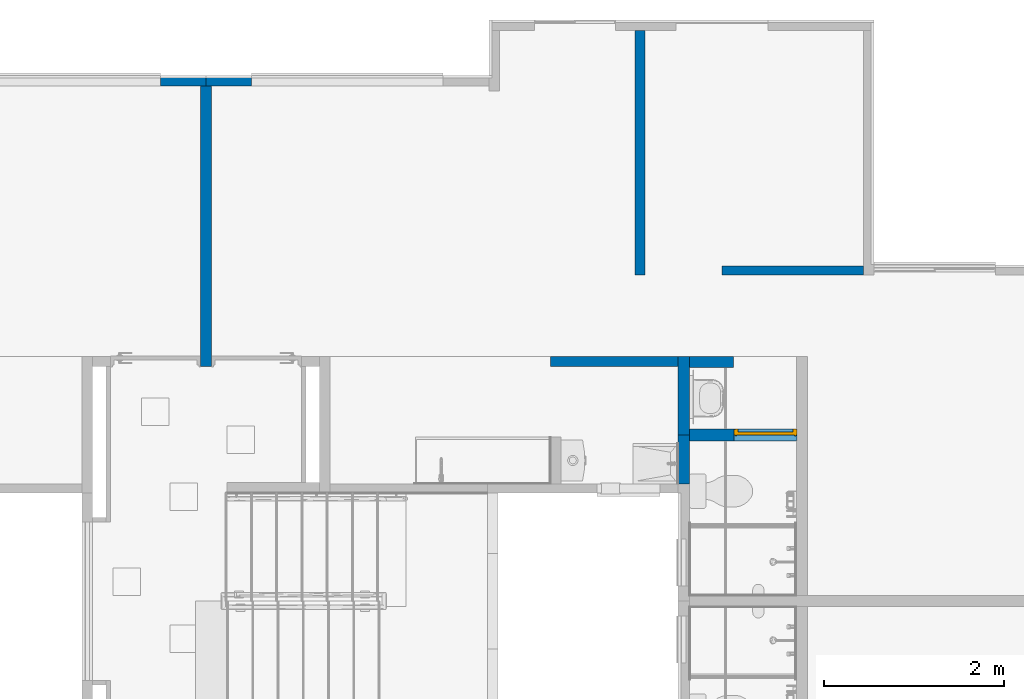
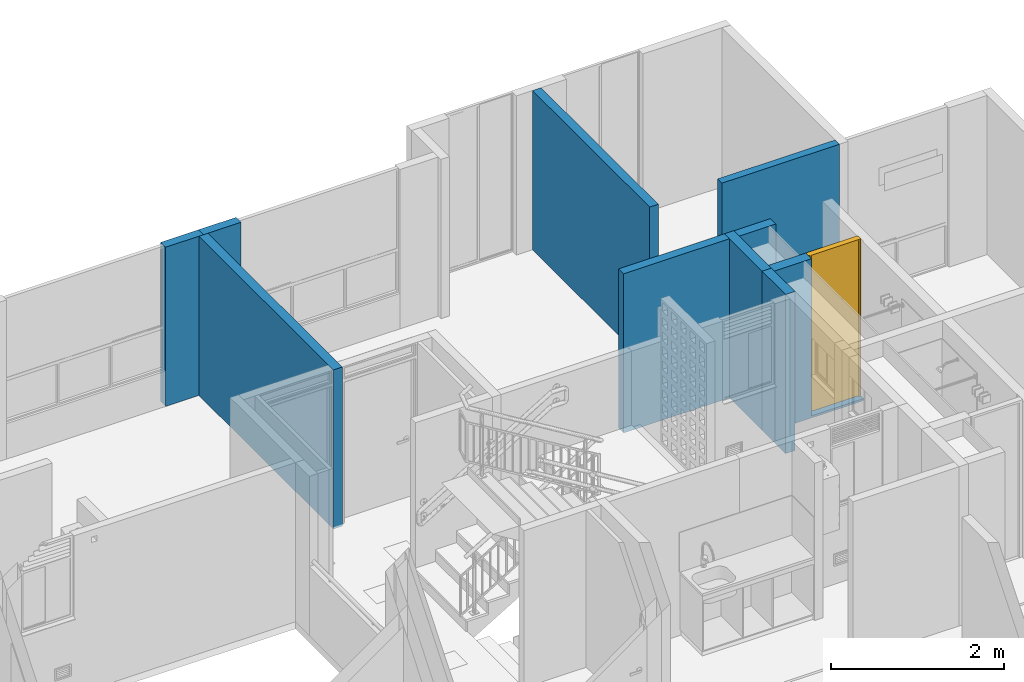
# One storey, part 22 of 48: 10 walls, 1 door, 1 opening.
"""IFC4 building model written with IfcOpenShell, lengths in metres."""

from ifc_helpers import new_model, entity, si_unit, converted_unit, derived_unit, direction, frame, origin, place, context, subcontext, project, spatial, indexed_curve, outline, extrude, polygons, source, transform, mapped, material, constituent, constituent_set, type_object, type_shapes, element, fill, save


model = new_model("IFC4")

# Units and contexts
model_context = context("Model", 3, precision=1e-05, world=origin(), true_north=direction((6.123031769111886e-17, 1.0)))
body_context = subcontext(model_context, "Body", "Model", "MODEL_VIEW")
ifc_project = project(units=[si_unit("LENGTHUNIT", "METRE"), si_unit("AREAUNIT", "SQUARE_METRE"), si_unit("VOLUMEUNIT", "CUBIC_METRE"), converted_unit("PLANEANGLEUNIT", "DEGREE", entity("IfcRatioMeasure", 0.017453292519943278), si_unit("PLANEANGLEUNIT", "RADIAN"), dimensions=[0, 0, 0, 0, 0, 0, 0]), si_unit("MASSUNIT", "GRAM", prefix="KILO"), derived_unit("MASSDENSITYUNIT", [(si_unit("MASSUNIT", "GRAM", prefix="KILO"), 1), (si_unit("LENGTHUNIT", "METRE"), -3)]), derived_unit("IONCONCENTRATIONUNIT", [(si_unit("MASSUNIT", "GRAM", prefix="KILO"), 1), (si_unit("LENGTHUNIT", "METRE"), -3)]), derived_unit("MOMENTOFINERTIAUNIT", [(si_unit("LENGTHUNIT", "METRE"), 4)]), si_unit("TIMEUNIT", "SECOND"), si_unit("FREQUENCYUNIT", "HERTZ"), si_unit("THERMODYNAMICTEMPERATUREUNIT", "DEGREE_CELSIUS"), derived_unit("THERMALTRANSMITTANCEUNIT", [(si_unit("MASSUNIT", "GRAM", prefix="KILO"), 1), (si_unit("THERMODYNAMICTEMPERATUREUNIT", "KELVIN"), -1), (si_unit("TIMEUNIT", "SECOND"), -3)]), derived_unit("THERMALCONDUCTANCEUNIT", [(si_unit("MASSUNIT", "GRAM", prefix="KILO"), 1), (si_unit("THERMODYNAMICTEMPERATUREUNIT", "KELVIN"), -1), (si_unit("TIMEUNIT", "SECOND"), -3), (si_unit("LENGTHUNIT", "METRE"), 1)]), derived_unit("VOLUMETRICFLOWRATEUNIT", [(si_unit("LENGTHUNIT", "METRE"), 3), (si_unit("TIMEUNIT", "SECOND"), -1)]), derived_unit("MASSFLOWRATEUNIT", [(si_unit("MASSUNIT", "GRAM", prefix="KILO"), 1), (si_unit("TIMEUNIT", "SECOND"), -1)]), derived_unit("ROTATIONALFREQUENCYUNIT", [(si_unit("TIMEUNIT", "SECOND"), -1)]), si_unit("ELECTRICCURRENTUNIT", "AMPERE"), si_unit("ELECTRICVOLTAGEUNIT", "VOLT"), si_unit("POWERUNIT", "WATT"), si_unit("FORCEUNIT", "NEWTON", prefix="KILO"), si_unit("ILLUMINANCEUNIT", "LUX"), si_unit("LUMINOUSFLUXUNIT", "LUMEN"), si_unit("LUMINOUSINTENSITYUNIT", "CANDELA"), derived_unit("USERDEFINED", [(si_unit("MASSUNIT", "GRAM", prefix="KILO"), -1), (si_unit("LENGTHUNIT", "METRE"), -2), (si_unit("TIMEUNIT", "SECOND"), 3), (si_unit("LUMINOUSFLUXUNIT", "LUMEN"), 1)]), derived_unit("USERDEFINED", [(si_unit("MASSUNIT", "GRAM", prefix="KILO"), 1), (si_unit("TIMEUNIT", "SECOND"), -3), (si_unit("LENGTHUNIT", "METRE"), 3), (si_unit("ELECTRICCURRENTUNIT", "AMPERE"), -2)]), derived_unit("SOUNDPOWERUNIT", [(si_unit("MASSUNIT", "GRAM", prefix="KILO"), 1), (si_unit("TIMEUNIT", "SECOND"), -3), (si_unit("LENGTHUNIT", "METRE"), 2)]), derived_unit("SOUNDPRESSUREUNIT", [(si_unit("MASSUNIT", "GRAM", prefix="KILO"), 1), (si_unit("LENGTHUNIT", "METRE"), -1), (si_unit("TIMEUNIT", "SECOND"), -2)]), derived_unit("LINEARVELOCITYUNIT", [(si_unit("LENGTHUNIT", "METRE"), 1), (si_unit("TIMEUNIT", "SECOND"), -1)]), si_unit("PRESSUREUNIT", "PASCAL"), derived_unit("USERDEFINED", [(si_unit("MASSUNIT", "GRAM", prefix="KILO"), 1), (si_unit("LENGTHUNIT", "METRE"), -2), (si_unit("TIMEUNIT", "SECOND"), -2)]), derived_unit("LINEARFORCEUNIT", [(si_unit("MASSUNIT", "GRAM", prefix="KILO"), 1), (si_unit("TIMEUNIT", "SECOND"), -2)]), derived_unit("PLANARFORCEUNIT", [(si_unit("MASSUNIT", "GRAM", prefix="KILO"), 1), (si_unit("LENGTHUNIT", "METRE"), -1), (si_unit("TIMEUNIT", "SECOND"), -2)]), derived_unit("SPECIFICHEATCAPACITYUNIT", [(si_unit("THERMODYNAMICTEMPERATUREUNIT", "KELVIN"), -1), (si_unit("LENGTHUNIT", "METRE"), 2), (si_unit("TIMEUNIT", "SECOND"), -2)]), derived_unit("HEATINGVALUEUNIT", [(si_unit("LENGTHUNIT", "METRE"), 2), (si_unit("TIMEUNIT", "SECOND"), -2)]), derived_unit("VAPORPERMEABILITYUNIT", [(si_unit("LENGTHUNIT", "METRE"), -1), (si_unit("TIMEUNIT", "SECOND"), 1)]), derived_unit("DYNAMICVISCOSITYUNIT", [(si_unit("MASSUNIT", "GRAM", prefix="KILO"), 1), (si_unit("TIMEUNIT", "SECOND"), -1), (si_unit("LENGTHUNIT", "METRE"), -1)]), derived_unit("THERMALEXPANSIONCOEFFICIENTUNIT", [(si_unit("THERMODYNAMICTEMPERATUREUNIT", "KELVIN"), -1)]), derived_unit("MODULUSOFELASTICITYUNIT", [(si_unit("MASSUNIT", "GRAM", prefix="KILO"), 1), (si_unit("LENGTHUNIT", "METRE"), -1), (si_unit("TIMEUNIT", "SECOND"), -2)]), derived_unit("ISOTHERMALMOISTURECAPACITYUNIT", [(si_unit("LENGTHUNIT", "METRE"), 3), (si_unit("MASSUNIT", "GRAM", prefix="KILO"), -1)]), derived_unit("MOISTUREDIFFUSIVITYUNIT", [(si_unit("TIMEUNIT", "SECOND"), -1), (si_unit("LENGTHUNIT", "METRE"), 2)])], contexts=[model_context])

# Site, building, storey
site_placement = place(None, origin())
site = spatial("IfcSite", under=ifc_project, at=site_placement, Name="Default", CompositionType="ELEMENT")
building_placement = place(site_placement, origin())
building = spatial("IfcBuilding", under=site, at=building_placement, CompositionType="ELEMENT")
storey_placement = place(building_placement, frame((0.0, 0.0, 4.700000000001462)))
storey = spatial("IfcBuildingStorey", under=building, at=storey_placement, Name="Nivel 3", CompositionType="ELEMENT", Elevation=4.700000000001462)

# Walls
ifc_material_1 = material(Name="Concreto (Aire)", Category="Materials")
wall_type_1 = type_object("IfcWallType", Name="Basic Wall:B2010 - 0.12m - Muro interior en concreto", PredefinedType="STANDARD")
wall_1_placement = place(storey_placement, frame((9.32250000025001, -3.8249999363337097, 0.0), z_axis=(0.0, 0.0, 1.0), x_axis=(0.0, 1.0, 0.0)))
element("IfcWall", 1, at=wall_1_placement, inside=storey, type_object=wall_type_1, material=ifc_material_1, Name="Basic Wall:B2010 - 0.12m - Muro interior en concreto", ObjectType="Basic Wall:B2010 - 0.12m - Muro interior en concreto", PredefinedType="NOTDEFINED", context=body_context, shape_type="SweptSolid", body=[
    extrude(outline(indexed_curve([(3.1149999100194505, 0.06000000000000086), (8.03641024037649e-16, 0.060000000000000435), (2.792261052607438e-16, -0.060000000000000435), (3.1149999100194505, -0.06000000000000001), (3.1149999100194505, 0.06000000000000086)], self_intersect=False)), origin(), (0.0, 0.0, 1.0), 2.2500000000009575),
])
ifc_material_2 = material(Name="LADRILLO CLARO", Category="Materials")
wall_type_2 = type_object("IfcWallType", Name="Basic Wall:B2010 - 0.115m - ME mampostería no estructural - Ladrillo", PredefinedType="STANDARD")
wall_2_placement = place(storey_placement, frame((8.817499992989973, -0.6525000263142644, 0.0)))
element("IfcWall", 2, at=wall_2_placement, inside=storey, type_object=wall_type_2, material=ifc_material_2, Name="Basic Wall:B2010 - 0.115m - ME mampostería no estructural - Ladrillo", ObjectType="Basic Wall:B2010 - 0.115m - ME mampostería no estructural - Ladrillo", PredefinedType="NOTDEFINED", context=body_context, shape_type="SweptSolid", body=[
    extrude(outline(indexed_curve([(0.505000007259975, 0.057500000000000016), (-1.5987656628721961e-15, 0.05749999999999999), (-5.6696859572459e-16, -0.05750000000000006), (0.505000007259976, -0.05750000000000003), (0.505000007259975, 0.057500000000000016)], self_intersect=False)), origin(), (0.0, 0.0, 1.0), 2.2500000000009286),
])
wall_3_placement = place(storey_placement, frame((9.827500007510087, -0.6525000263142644, 0.0), z_axis=(0.0, 0.0, 1.0), x_axis=(-1.0, 0.0, 0.0)))
element("IfcWall", 3, at=wall_3_placement, inside=storey, type_object=wall_type_2, material=ifc_material_2, Name="Basic Wall:B2010 - 0.115m - ME mampostería no estructural - Ladrillo", ObjectType="Basic Wall:B2010 - 0.115m - ME mampostería no estructural - Ladrillo", PredefinedType="NOTDEFINED", context=body_context, shape_type="SweptSolid", body=[
    extrude(outline(indexed_curve([(0.5050000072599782, 0.05750000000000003), (-5.6696859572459e-16, 0.05750000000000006), (5.669685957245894e-16, -0.05749999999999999), (0.5050000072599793, -0.057500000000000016), (0.5050000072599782, 0.05750000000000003)], self_intersect=False)), origin(), (0.0, 0.0, 1.0), 2.2500000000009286),
])
ifc_material_3 = material(Name="Ladrillo claro (Aire)", Category="Materials")
wall_type_3 = type_object("IfcWallType", Name="Basic Wall:B2010 - 0.115m - Muro interior en mampostería - Ladrillo", PredefinedType="STANDARD")
wall_4_placement = place(storey_placement, frame((14.135000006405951, -0.0950000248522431, 0.0), z_axis=(0.0, 0.0, 1.0), x_axis=(0.0, -1.0, 0.0)))
element("IfcWall", 4, at=wall_4_placement, inside=storey, type_object=wall_type_3, material=ifc_material_3, Name="Basic Wall:B2010 - 0.115m - Muro interior en mampostería - Ladrillo", ObjectType="Basic Wall:B2010 - 0.115m - Muro interior en mampostería - Ladrillo", PredefinedType="NOTDEFINED", context=body_context, shape_type="SweptSolid", body=[
    extrude(outline(indexed_curve([(2.7150000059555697, 0.05749999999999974), (-3.2594452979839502e-18, 0.057499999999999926), (3.2594452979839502e-18, -0.057499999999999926), (2.7150000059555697, -0.05750000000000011), (2.7150000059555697, 0.05749999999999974)], self_intersect=False)), origin(), (0.0, 0.0, 1.0), 2.2499999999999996),
])
wall_5_placement = place(storey_placement, frame((14.557500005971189, -3.7675000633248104, 0.0), z_axis=(0.0, 0.0, 1.0), x_axis=(-1.0, 0.0, 0.0)))
element("IfcWall", 5, at=wall_5_placement, inside=storey, type_object=wall_type_3, material=ifc_material_3, Name="Basic Wall:B2010 - 0.115m - Muro interior en mampostería - Ladrillo", ObjectType="Basic Wall:B2010 - 0.115m - Muro interior en mampostería - Ladrillo", PredefinedType="NOTDEFINED", context=body_context, shape_type="SweptSolid", body=[
    extrude(outline(indexed_curve([(1.414999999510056, 0.057499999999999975), (1.9595423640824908e-16, 0.057499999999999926), (-1.9595423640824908e-16, -0.057499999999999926), (1.4149999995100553, -0.05749999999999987), (1.414999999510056, 0.057499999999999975)], self_intersect=False)), origin(), (0.0, 0.0, 1.0), 2.2499999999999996),
])
wall_type_4 = type_object("IfcWallType", Name="Basic Wall:B2010 - 0.10m - Muro interior en concreto", PredefinedType="STANDARD")
wall_6_placement = place(storey_placement, frame((16.612500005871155, -2.7600000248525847, 0.0), z_axis=(0.0, 0.0, 1.0), x_axis=(-1.0, 0.0, 0.0)))
element("IfcWall", 6, at=wall_6_placement, inside=storey, type_object=wall_type_4, material=ifc_material_1, Name="Basic Wall:B2010 - 0.10m - Muro interior en concreto", ObjectType="Basic Wall:B2010 - 0.10m - Muro interior en concreto", PredefinedType="NOTDEFINED", context=body_context, shape_type="SweptSolid", body=[
    extrude(outline(indexed_curve([(1.569999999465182, 0.050000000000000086), (-1.0889063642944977e-15, 0.05), (-3.2425621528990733e-15, -0.05), (1.5699999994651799, -0.04999999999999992), (1.569999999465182, 0.050000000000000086)], self_intersect=False)), origin(), (0.0, 0.0, 1.0), 2.2499999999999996),
])
ifc_material_4 = material(Name="Pañete", Category="Materials")
ifc_constituent_1 = constituent(ifc_material_4, Name="Pañete", Category="Materials")
ifc_constituent_2 = constituent(ifc_material_3, Name="Ladrillo claro (Aire)", Category="Materials")
ifc_constituent_set_1 = constituent_set(constituents=[ifc_constituent_1, ifc_constituent_2], Name="Basic Wall:B2010 - 0.115m - Muro interior en mampostería - Ladrillo + Pañete")
wall_type_5 = type_object("IfcWallType", Name="Basic Wall:B2010 - 0.115m - Muro interior en mampostería - Ladrillo + Pañete", PredefinedType="STANDARD", material=ifc_constituent_set_1)
wall_7_placement = place(storey_placement, frame((15.172500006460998, -3.7725000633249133, 0.0), z_axis=(0.0, 0.0, 1.0), x_axis=(-1.0, 0.0, 0.0)))
element("IfcWall", 7, at=wall_7_placement, inside=storey, type_object=wall_type_5, material=ifc_constituent_set_1, Name="Basic Wall:B2010 - 0.115m - Muro interior en mampostería - Ladrillo + Pañete", ObjectType="Basic Wall:B2010 - 0.115m - Muro interior en mampostería - Ladrillo + Pañete", PredefinedType="NOTDEFINED", context=body_context, shape_type="SweptSolid", body=[
    extrude(outline(indexed_curve([(-0.004999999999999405, -0.24500000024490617), (0.0050000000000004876, -0.24500000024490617), (0.004999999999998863, 0.245000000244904), (-0.005000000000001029, 0.245000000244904), (-0.004999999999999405, -0.24500000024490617)], self_intersect=False)), frame((0.24500000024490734, 0.057499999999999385, 0.0), z_axis=(0.0, 0.0, 1.0), x_axis=(0.0, -1.0, 0.0)), (0.0, 0.0, 1.0), 2.2500000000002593),
    extrude(outline(indexed_curve([(-0.057499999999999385, -0.245000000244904), (0.05750000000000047, -0.245000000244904), (0.057499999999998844, 0.24500000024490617), (-0.05750000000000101, 0.24500000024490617), (-0.057499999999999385, -0.245000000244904)], self_intersect=False)), frame((0.24500000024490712, -0.004999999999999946, 0.0), z_axis=(0.0, 0.0, 1.0), x_axis=(0.0, 1.0, 0.0)), (0.0, 0.0, 1.0), 2.2500000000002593),
])

# Wall, opening, door
ifc_constituent_3 = constituent(ifc_material_4, Name="Pañete", Category="Materials")
ifc_constituent_4 = constituent(ifc_material_2, Name="LADRILLO CLARO", Category="Materials")
ifc_constituent_5 = constituent(ifc_material_4, Name="Pañete (2)", Category="Materials")
ifc_constituent_set_2 = constituent_set(constituents=[ifc_constituent_3, ifc_constituent_4, ifc_constituent_5], Name="Basic Wall:B2010 - 0.115m - MI  mampostería no estructural - Pañete + Ladrillo + Pañete")
wall_type_6 = type_object("IfcWallType", Name="Basic Wall:B2010 - 0.115m - MI  mampostería no estructural - Pañete + Ladrillo + Pañete", PredefinedType="STANDARD", material=ifc_constituent_set_2)
wall_8_placement = place(storey_placement, frame((14.682500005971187, -4.582500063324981, 0.0)))
wall_8 = element("IfcWall", 8, at=wall_8_placement, inside=storey, type_object=wall_type_6, material=ifc_constituent_set_2, Name="Basic Wall:B2010 - 0.115m - MI  mampostería no estructural - Pañete + Ladrillo + Pañete", ObjectType="Basic Wall:B2010 - 0.115m - MI  mampostería no estructural - Pañete + Ladrillo + Pañete", PredefinedType="NOTDEFINED", context=body_context, shape_type="SweptSolid", body=[
    extrude(outline(indexed_curve([(-1.1325000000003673, -0.5199994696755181), (1.1175000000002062, -0.5199994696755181), (1.1175000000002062, -0.12999946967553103), (1.1175000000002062, -0.10999946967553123), (1.1175000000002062, -0.0250005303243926), (-1.102500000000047, -0.0250005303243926), (-1.102500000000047, 0.6649994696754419), (-1.1325000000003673, 0.6649994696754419), (-1.1325000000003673, -0.5199994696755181)], self_intersect=False)), frame((0.51999946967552, -0.06750000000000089, 1.1325000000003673), z_axis=(0.0, 1.0, 0.0), x_axis=(0.0, 0.0, 1.0)), (0.0, 0.0, 1.0), 0.010000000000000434),
    extrude(outline(indexed_curve([(-0.7600000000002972, -0.5599992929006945), (1.4900000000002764, -0.5599992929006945), (1.4900000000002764, -0.06500035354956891), (-0.729999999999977, -0.06500035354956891), (-0.729999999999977, 0.6249996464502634), (-0.7600000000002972, 0.6249996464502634), (-0.7600000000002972, -0.5599992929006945)], self_intersect=False)), frame((0.5599992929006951, 0.057499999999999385, 0.7600000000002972), z_axis=(0.0, 1.0, 0.0), x_axis=(0.0, 0.0, 1.0)), (0.0, 0.0, 1.0), 0.009999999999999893),
    extrude(outline(indexed_curve([(-0.7600000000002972, -0.5633326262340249), (1.4900000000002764, -0.563332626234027), (1.4900000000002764, -0.06833368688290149), (-0.729999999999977, -0.06833368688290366), (-0.729999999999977, 0.6316663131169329), (-0.7600000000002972, 0.6316663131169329), (-0.7600000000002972, -0.5633326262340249)], self_intersect=False)), frame((0.5633326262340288, -0.05750000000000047, 0.7600000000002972), z_axis=(0.0, 1.0, 0.0), x_axis=(0.0, 0.0, 1.0)), (0.0, 0.0, 1.0), 0.11499999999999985),
])
opening_placement = place(wall_8_placement, frame((1.1949989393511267, 0.06749999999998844, 0.0299999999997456)))
opening = element("IfcOpeningElement", 9, at=opening_placement, cuts=wall_8, Name="C1030 - Puerta batiente - Madera+Aluminio:C1030 - 0.70 x 2.22 - Puerta batiente - Madera+ Metal:1", PredefinedType="OPENING", context=body_context, shape_type="SweptSolid", body=[
    extrude(outline(indexed_curve([(1.438182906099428e-16, 0.7000000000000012), (1.438182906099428e-16, 0.0), (2.219999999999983, 0.0), (2.2199999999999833, 0.7000000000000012), (1.438182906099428e-16, 0.7000000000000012)], self_intersect=False)), frame((0.0, 0.0, 0.0), z_axis=(0.0, -1.0, 0.0), x_axis=(0.0, 0.0, 1.0)), (0.0, 0.0, 1.0), 0.13499999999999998),
])
ifc_material_5 = material(Name="<Unnamed>")
door_type = type_object("IfcDoorType", Name="C1030 - Puerta batiente - Madera+Aluminio:C1030 - 0.70 x 2.22 - Puerta batiente - Madera+ Metal", OperationType="SINGLE_SWING_LEFT", PredefinedType="DOOR", material=ifc_material_5)
shared_shape = source(origin(), body_context, "Body", "Tessellation", [
    polygons([(0.6699999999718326, 0.06499999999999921, 0.009880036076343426), (0.6699999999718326, 0.0324999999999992, 0.009880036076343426), (0.030000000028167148, 0.0324999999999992, 0.009880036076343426), (0.030000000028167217, 0.06499999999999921, 0.009880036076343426), (0.6699999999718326, 0.06499999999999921, 2.2050000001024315), (0.6699999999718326, 0.0324999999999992, 2.2050000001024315), (0.030000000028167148, 0.0324999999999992, 2.2050000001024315), (0.030000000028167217, 0.06499999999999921, 2.2050000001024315)], [[[1, 2, 3, 4]], [[5, 6, 2, 1]], [[6, 7, 3, 2]], [[7, 8, 4, 3]], [[8, 5, 1, 4]], [[5, 8, 7, 6]]], closed=True),
    polygons([(0.6849999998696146, 0.0649999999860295, 0.0), (0.7, 0.0649999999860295, 0.0), (0.7, 0.0074999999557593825, 0.0), (0.6849999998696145, 0.007499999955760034, 0.0), (0.6849999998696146, -5.075939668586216e-17, 0.0), (0.6549999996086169, -1.6919798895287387e-17, 0.0), (0.6549999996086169, 0.04000000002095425, 0.0), (0.6699999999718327, 0.04000000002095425, 0.0), (0.6699999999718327, 0.07999999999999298, 0.0), (0.6849999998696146, 0.07999999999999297, 0.0), (0.7, 0.0074999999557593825, 2.2199999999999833), (0.6849999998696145, 0.007499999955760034, 2.2199999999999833), (0.6849999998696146, 0.0649999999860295, 2.2199999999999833), (0.7, 0.0649999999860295, 2.2199999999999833), (0.015000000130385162, 0.06499999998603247, 0.0), (0.015000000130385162, 0.07999999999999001, 0.0), (0.030000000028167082, 0.07999999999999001, 0.0), (0.030000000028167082, 0.04000000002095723, 0.0), (0.04500000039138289, 0.04000000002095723, 0.0), (0.04500000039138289, 0.0, 0.0), (0.01500000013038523, 0.0, 0.0), (0.015000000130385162, 0.007499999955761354, 0.0), (0.0, 0.007499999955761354, 0.0), (0.0, 0.06499999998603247, 0.0), (0.0, 0.06499999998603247, 2.2199999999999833), (0.015000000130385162, 0.06499999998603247, 2.2199999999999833), (0.015000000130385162, 0.007499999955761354, 2.2199999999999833), (0.0, 0.007499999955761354, 2.2199999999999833), (0.04500000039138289, 0.04000000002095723, 2.2050000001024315), (0.04500000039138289, 0.03250000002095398, 2.2050000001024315), (0.04500000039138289, 0.03250000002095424, 2.189999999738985), (0.04500000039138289, 0.0, 2.189999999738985), (0.6549999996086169, -1.6919798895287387e-17, 2.189999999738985), (0.6549999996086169, 0.032500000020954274, 2.189999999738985), (0.6549999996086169, 0.03250000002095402, 2.2050000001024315), (0.6549999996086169, 0.04000000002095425, 2.2050000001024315), (0.030000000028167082, 0.07999999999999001, 2.2199999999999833), (0.030000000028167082, 0.07249999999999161, 2.2199999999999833), (0.030000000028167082, 0.07249999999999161, 2.2050000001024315), (0.030000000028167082, 0.04000000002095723, 2.2050000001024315), (0.6699999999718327, 0.04000000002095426, 2.2050000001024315), (0.6699999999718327, 0.07249999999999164, 2.2050000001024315), (0.6699999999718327, 0.07249999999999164, 2.2199999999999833), (0.6699999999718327, 0.07999999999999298, 2.2199999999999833), (0.015000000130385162, 0.07999999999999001, 2.2199999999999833), (0.6849999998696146, -5.075939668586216e-17, 2.2199999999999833), (0.01500000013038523, 0.0, 2.2199999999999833), (0.6849999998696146, 0.07999999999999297, 2.2199999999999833)], [[[1, 2, 3, 4, 5, 6, 7, 8, 9, 10]], [[11, 12, 4, 3]], [[13, 14, 2, 1]], [[15, 16, 17, 18, 19, 20, 21, 22, 23, 24]], [[25, 26, 15, 24]], [[27, 28, 23, 22]], [[20, 19, 29, 30, 31, 32]], [[7, 6, 33, 34, 35, 36]], [[18, 17, 37, 38, 39, 40]], [[9, 8, 41, 42, 43, 44]], [[28, 25, 24, 23]], [[14, 11, 3, 2]], [[26, 45, 16, 15]], [[45, 37, 17, 16]], [[19, 18, 40, 29]], [[21, 20, 32, 33, 6, 5, 46, 47]], [[47, 27, 22, 21]], [[12, 46, 5, 4]], [[48, 13, 1, 10]], [[26, 25, 28, 27, 47, 46, 12, 11, 14, 13, 48, 44, 43, 38, 37, 45]], [[39, 42, 41, 36, 35, 30, 29, 40]], [[33, 32, 31, 34]], [[8, 7, 36, 41]], [[44, 48, 10, 9]], [[34, 31, 30, 35]], [[42, 39, 38, 43]]], closed=True),
])
type_shapes(door_type, [shared_shape])
door_placement = place(opening_placement, frame((0.0, 0.0, 0.0), z_axis=(0.0, 0.0, 1.0), x_axis=(-1.0, 0.0, 0.0)))
door = element("IfcDoor", 10, at=door_placement, inside=storey, type_object=door_type, material=ifc_material_5, Name="C1030 - Puerta batiente - Madera+Aluminio:C1030 - 0.70 x 2.22 - Puerta batiente - Madera+ Metal", ObjectType="C1030 - Puerta batiente - Madera+Aluminio:C1030 - 0.70 x 2.22 - Puerta batiente - Madera+ Metal", OperationType="SINGLE_SWING_LEFT", OverallHeight=2.2199999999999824, OverallWidth=0.7000000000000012, PredefinedType="DOOR", context=body_context, shape_type="MappedRepresentation", body=[
    mapped(shared_shape, transform((0.0, 0.0, 0.0), scale=1.0)),
])
fill(opening, door)

# Walls
ifc_material_6 = material(Name="Pañete, estuco y pintura", Category="Materials")
ifc_constituent_6 = constituent(ifc_material_6, Name="Pañete, estuco y pintura", Category="Materials")
ifc_constituent_7 = constituent(ifc_material_3, Name="Ladrillo claro (Aire)", Category="Materials")
ifc_constituent_set_3 = constituent_set(constituents=[ifc_constituent_6, ifc_constituent_7], Name="Basic Wall:B2010 - 0.115m - Muro interior en mampostería - Ladrillo + Pañete+ estuco+ pintura")
wall_type_7 = type_object("IfcWallType", Name="Basic Wall:B2010 - 0.115m - Muro interior en mampostería - Ladrillo + Pañete+ estuco+ pintura", PredefinedType="STANDARD", material=ifc_constituent_set_3)
wall_9_placement = place(storey_placement, frame((14.620000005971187, -3.7100000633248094, 0.0), z_axis=(0.0, 0.0, 1.0), x_axis=(0.0, -1.0, 0.0)))
element("IfcWall", 11, at=wall_9_placement, inside=storey, type_object=wall_type_7, material=ifc_constituent_set_3, Name="Basic Wall:B2010 - 0.115m - Muro interior en mampostería - Ladrillo + Pañete+ estuco+ pintura", ObjectType="Basic Wall:B2010 - 0.115m - Muro interior en mampostería - Ladrillo + Pañete+ estuco+ pintura", PredefinedType="NOTDEFINED", context=body_context, shape_type="SweptSolid", body=[
    extrude(outline(indexed_curve([(-0.35916666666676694, -0.0033333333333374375), (0.3208333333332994, -0.0033333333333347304), (0.44583333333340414, -0.003333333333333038), (0.4458333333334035, 0.0066666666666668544), (-0.42666666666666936, 0.006666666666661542), (-0.4266666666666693, -0.0033333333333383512), (-0.35916666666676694, -0.0033333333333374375)], self_intersect=False)), frame((0.4458333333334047, 0.05916666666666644, 0.0), z_axis=(0.0, 0.0, 1.0), x_axis=(-1.0, 0.0, 0.0)), (0.0, 0.0, 1.0), 2.2499999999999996),
    extrude(outline(indexed_curve([(-0.2570000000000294, -0.046000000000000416), (0.5005000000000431, -0.046000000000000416), (0.5005000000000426, 0.06899999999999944), (-0.3720000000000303, 0.06899999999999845), (-0.37200000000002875, -0.046000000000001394), (-0.2570000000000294, -0.046000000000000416)], self_intersect=False)), frame((0.37200000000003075, -0.016499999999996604, 0.0)), (0.0, 0.0, 1.0), 2.2499999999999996),
])
wall_10_placement = place(storey_placement, frame((14.620000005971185, -4.582500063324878, 0.0), z_axis=(0.0, 0.0, 1.0), x_axis=(0.0, -1.0, 0.0)))
element("IfcWall", 12, at=wall_10_placement, inside=storey, type_object=wall_type_7, material=ifc_constituent_set_3, Name="Basic Wall:B2010 - 0.115m - Muro interior en mampostería - Ladrillo + Pañete+ estuco+ pintura", ObjectType="Basic Wall:B2010 - 0.115m - Muro interior en mampostería - Ladrillo + Pañete+ estuco+ pintura", PredefinedType="NOTDEFINED", context=body_context, shape_type="SweptSolid", body=[
    extrude(outline(indexed_curve([(0.162805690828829, -0.004000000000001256), (0.23030569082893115, -0.004000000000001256), (0.23030569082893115, 0.005999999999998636), (-0.3117085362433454, 0.006000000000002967), (-0.3117085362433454, -0.003999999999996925), (0.162805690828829, -0.004000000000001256)], self_intersect=False)), frame((0.23030569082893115, 0.05850000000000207, 0.0), z_axis=(0.0, 0.0, 1.0), x_axis=(-1.0, 0.0, 0.0)), (0.0, 0.0, 1.0), 2.2499999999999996),
    extrude(outline(indexed_curve([(-0.12467143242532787, -0.0383333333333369), (-0.09067143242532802, -0.0383333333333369), (0.3248428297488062, -0.03833333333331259), (0.32484282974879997, 0.07666666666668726), (-0.21717139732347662, 0.07666666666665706), (-0.21717139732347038, -0.03833333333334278), (-0.12467143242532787, -0.0383333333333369)], self_intersect=False)), frame((0.2171713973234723, -0.024166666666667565, 0.0)), (0.0, 0.0, 1.0), 2.2499999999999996),
])

save(model, "model.ifc")
